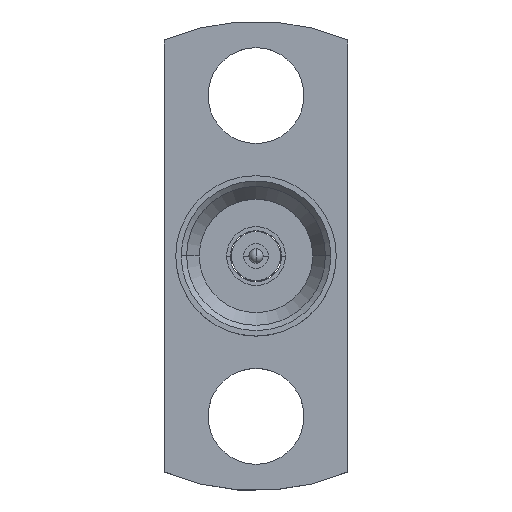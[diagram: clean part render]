
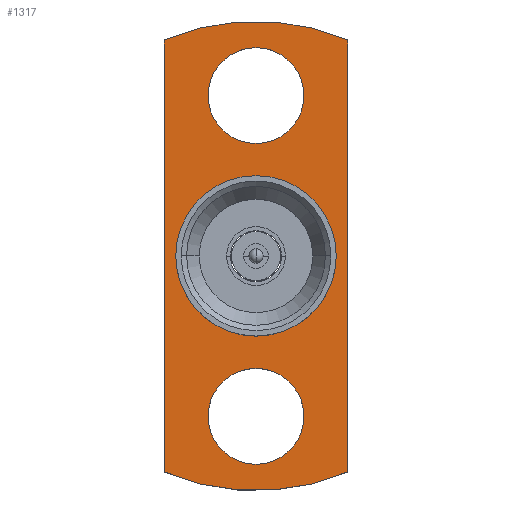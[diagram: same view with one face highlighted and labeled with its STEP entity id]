
A CAD part, top view. The second image highlights one B-rep face of the part: STEP entity #1317.
In plain terms, the highlighted planar face has unit normal (0, 0, 1).
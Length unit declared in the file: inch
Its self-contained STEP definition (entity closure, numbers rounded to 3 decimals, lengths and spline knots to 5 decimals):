
#42 = EDGE_CURVE ( 'NONE', #995, #2346, #704, .T. ) ;
#50 = EDGE_LOOP ( 'NONE', ( #315, #1643, #2588, #1707 ) ) ;
#61 = CARTESIAN_POINT ( 'NONE',  ( 0., 0., -0.075 ) ) ;
#95 = EDGE_CURVE ( 'NONE', #2346, #2101, #796, .T. ) ;
#151 = CARTESIAN_POINT ( 'NONE',  ( 0.049, -0.164, -0.075 ) ) ;
#189 = DIRECTION ( 'NONE',  ( -1., 0., 0. ) ) ;
#206 = CIRCLE ( 'NONE', #750, 0.049 ) ;
#212 = DIRECTION ( 'NONE',  ( 0., 0., -1. ) ) ;
#213 = FACE_BOUND ( 'NONE', #934, .T. ) ;
#260 = DIRECTION ( 'NONE',  ( 0., 0., -1. ) ) ;
#279 = EDGE_CURVE ( 'NONE', #1727, #767, #427, .T. ) ;
#315 = ORIENTED_EDGE ( 'NONE', *, *, #434, .F. ) ;
#329 = AXIS2_PLACEMENT_3D ( 'NONE', #1377, #2680, #678 ) ;
#379 = CARTESIAN_POINT ( 'NONE',  ( -0.049, 0.164, -0.075 ) ) ;
#387 = VERTEX_POINT ( 'NONE', #1841 ) ;
#410 = FACE_BOUND ( 'NONE', #1517, .T. ) ;
#427 = CIRCLE ( 'NONE', #1988, 0.049 ) ;
#434 = EDGE_CURVE ( 'NONE', #2101, #2629, #727, .T. ) ;
#487 = EDGE_CURVE ( 'NONE', #1665, #387, #1098, .T. ) ;
#494 = PLANE ( 'NONE',  #2489 ) ;
#554 = DIRECTION ( 'NONE',  ( 0., 0., -1. ) ) ;
#595 = CARTESIAN_POINT ( 'NONE',  ( 0.049, 0.164, -0.075 ) ) ;
#678 = DIRECTION ( 'NONE',  ( -1., 0., 0. ) ) ;
#704 = CIRCLE ( 'NONE', #2485, 0.24 ) ;
#714 = DIRECTION ( 'NONE',  ( -1., 0., 0. ) ) ;
#720 = CARTESIAN_POINT ( 'NONE',  ( -0.094, 0.22083, -0.075 ) ) ;
#727 = CIRCLE ( 'NONE', #329, 0.24 ) ;
#750 = AXIS2_PLACEMENT_3D ( 'NONE', #1726, #212, #1497 ) ;
#767 = VERTEX_POINT ( 'NONE', #379 ) ;
#796 = LINE ( 'NONE', #1949, #1970 ) ;
#843 = FACE_OUTER_BOUND ( 'NONE', #50, .T. ) ;
#845 = CARTESIAN_POINT ( 'NONE',  ( -0.082, 0., -0.075 ) ) ;
#854 = DIRECTION ( 'NONE',  ( 0., 0., -1. ) ) ;
#934 = EDGE_LOOP ( 'NONE', ( #2582, #2709 ) ) ;
#981 = CIRCLE ( 'NONE', #1159, 0.082 ) ;
#985 = EDGE_CURVE ( 'NONE', #767, #1727, #2109, .T. ) ;
#995 = VERTEX_POINT ( 'NONE', #1259 ) ;
#1041 = CARTESIAN_POINT ( 'NONE',  ( 0.082, 0., -0.075 ) ) ;
#1050 = VERTEX_POINT ( 'NONE', #845 ) ;
#1053 = AXIS2_PLACEMENT_3D ( 'NONE', #2432, #1369, #1129 ) ;
#1098 = CIRCLE ( 'NONE', #1053, 0.049 ) ;
#1129 = DIRECTION ( 'NONE',  ( -1., 0., 0. ) ) ;
#1142 = CIRCLE ( 'NONE', #1479, 0.082 ) ;
#1155 = CARTESIAN_POINT ( 'NONE',  ( 0.094, -0.22083, -0.075 ) ) ;
#1159 = AXIS2_PLACEMENT_3D ( 'NONE', #1547, #260, #1778 ) ;
#1180 = ORIENTED_EDGE ( 'NONE', *, *, #1211, .T. ) ;
#1211 = EDGE_CURVE ( 'NONE', #1737, #1050, #981, .T. ) ;
#1222 = VECTOR ( 'NONE', #2257, 39.37008 ) ;
#1259 = CARTESIAN_POINT ( 'NONE',  ( -0.094, 0.22083, -0.075 ) ) ;
#1262 = DIRECTION ( 'NONE',  ( 0., 0., -1. ) ) ;
#1290 = DIRECTION ( 'NONE',  ( 0., -1., 0. ) ) ;
#1317 = ADVANCED_FACE ( 'NONE', ( #213, #410, #1871, #843 ), #494, .F. ) ;
#1334 = EDGE_CURVE ( 'NONE', #2629, #995, #1810, .T. ) ;
#1369 = DIRECTION ( 'NONE',  ( 0., 0., -1. ) ) ;
#1377 = CARTESIAN_POINT ( 'NONE',  ( 0., 0., -0.075 ) ) ;
#1414 = ORIENTED_EDGE ( 'NONE', *, *, #2592, .T. ) ;
#1449 = ORIENTED_EDGE ( 'NONE', *, *, #279, .T. ) ;
#1474 = DIRECTION ( 'NONE',  ( 0., 0., -1. ) ) ;
#1479 = AXIS2_PLACEMENT_3D ( 'NONE', #2782, #1262, #2573 ) ;
#1497 = DIRECTION ( 'NONE',  ( -1., 0., 0. ) ) ;
#1517 = EDGE_LOOP ( 'NONE', ( #1760, #1449 ) ) ;
#1547 = CARTESIAN_POINT ( 'NONE',  ( 0., 0., -0.075 ) ) ;
#1643 = ORIENTED_EDGE ( 'NONE', *, *, #95, .F. ) ;
#1648 = CARTESIAN_POINT ( 'NONE',  ( 0.094, 0.22083, -0.075 ) ) ;
#1665 = VERTEX_POINT ( 'NONE', #151 ) ;
#1688 = CARTESIAN_POINT ( 'NONE',  ( -0.094, -0.22083, -0.075 ) ) ;
#1707 = ORIENTED_EDGE ( 'NONE', *, *, #1334, .F. ) ;
#1726 = CARTESIAN_POINT ( 'NONE',  ( 0., -0.164, -0.075 ) ) ;
#1727 = VERTEX_POINT ( 'NONE', #595 ) ;
#1737 = VERTEX_POINT ( 'NONE', #1041 ) ;
#1760 = ORIENTED_EDGE ( 'NONE', *, *, #985, .T. ) ;
#1778 = DIRECTION ( 'NONE',  ( -1., 0., 0. ) ) ;
#1810 = LINE ( 'NONE', #720, #1222 ) ;
#1841 = CARTESIAN_POINT ( 'NONE',  ( -0.049, -0.164, -0.075 ) ) ;
#1855 = CARTESIAN_POINT ( 'NONE',  ( 0., 0.164, -0.075 ) ) ;
#1871 = FACE_BOUND ( 'NONE', #2218, .T. ) ;
#1947 = AXIS2_PLACEMENT_3D ( 'NONE', #2784, #1474, #189 ) ;
#1949 = CARTESIAN_POINT ( 'NONE',  ( 0.094, 0.22083, -0.075 ) ) ;
#1970 = VECTOR ( 'NONE', #1290, 39.37008 ) ;
#1988 = AXIS2_PLACEMENT_3D ( 'NONE', #1855, #554, #2078 ) ;
#2023 = DIRECTION ( 'NONE',  ( 0., 0., -1. ) ) ;
#2078 = DIRECTION ( 'NONE',  ( -1., 0., 0. ) ) ;
#2101 = VERTEX_POINT ( 'NONE', #1155 ) ;
#2109 = CIRCLE ( 'NONE', #1947, 0.049 ) ;
#2170 = DIRECTION ( 'NONE',  ( -1., 0., 0. ) ) ;
#2218 = EDGE_LOOP ( 'NONE', ( #1180, #1414 ) ) ;
#2257 = DIRECTION ( 'NONE',  ( 0., 1., 0. ) ) ;
#2346 = VERTEX_POINT ( 'NONE', #1648 ) ;
#2394 = CARTESIAN_POINT ( 'NONE',  ( 0., 0., -0.075 ) ) ;
#2432 = CARTESIAN_POINT ( 'NONE',  ( 0., -0.164, -0.075 ) ) ;
#2485 = AXIS2_PLACEMENT_3D ( 'NONE', #2394, #854, #2170 ) ;
#2489 = AXIS2_PLACEMENT_3D ( 'NONE', #61, #2023, #714 ) ;
#2512 = EDGE_CURVE ( 'NONE', #387, #1665, #206, .T. ) ;
#2573 = DIRECTION ( 'NONE',  ( -1., 0., 0. ) ) ;
#2582 = ORIENTED_EDGE ( 'NONE', *, *, #2512, .T. ) ;
#2588 = ORIENTED_EDGE ( 'NONE', *, *, #42, .F. ) ;
#2592 = EDGE_CURVE ( 'NONE', #1050, #1737, #1142, .T. ) ;
#2629 = VERTEX_POINT ( 'NONE', #1688 ) ;
#2680 = DIRECTION ( 'NONE',  ( 0., 0., -1. ) ) ;
#2709 = ORIENTED_EDGE ( 'NONE', *, *, #487, .T. ) ;
#2782 = CARTESIAN_POINT ( 'NONE',  ( 0., 0., -0.075 ) ) ;
#2784 = CARTESIAN_POINT ( 'NONE',  ( 0., 0.164, -0.075 ) ) ;
